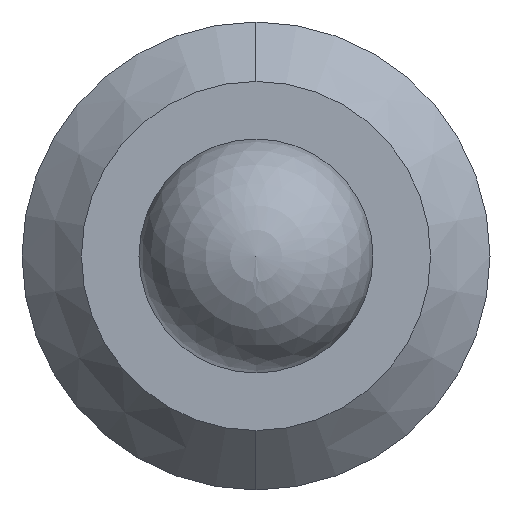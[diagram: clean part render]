
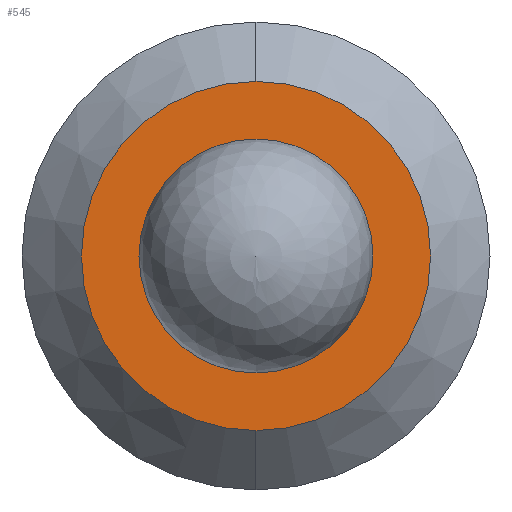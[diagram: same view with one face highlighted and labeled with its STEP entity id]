
A CAD part, left-side view. The second image highlights one B-rep face of the part: STEP entity #545.
In plain terms, the highlighted planar face has unit normal (-1, 0, 0).
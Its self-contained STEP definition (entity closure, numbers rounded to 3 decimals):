
#71 = DIRECTION ( 'NONE',  ( 0., 0., -1. ) ) ;
#72 = AXIS2_PLACEMENT_3D ( 'NONE', #357, #354, #351 ) ;
#76 = CARTESIAN_POINT ( 'NONE',  ( 0., 0., 0. ) ) ;
#78 = EDGE_CURVE ( 'NONE', #404, #268, #488, .T. ) ;
#80 = CARTESIAN_POINT ( 'NONE',  ( 0., 0., 0.746 ) ) ;
#88 = PLANE ( 'NONE',  #271 ) ;
#98 = EDGE_CURVE ( 'NONE', #268, #404, #119, .T. ) ;
#100 = AXIS2_PLACEMENT_3D ( 'NONE', #592, #169, #150 ) ;
#119 = CIRCLE ( 'NONE', #100, 0.5 ) ;
#132 = DIRECTION ( 'NONE',  ( 1., 0., 0. ) ) ;
#150 = DIRECTION ( 'NONE',  ( 0., 0., 1. ) ) ;
#169 = DIRECTION ( 'NONE',  ( -1., 0., 0. ) ) ;
#171 = VERTEX_POINT ( 'NONE', #586 ) ;
#216 = CIRCLE ( 'NONE', #72, 0.746 ) ;
#219 = FACE_BOUND ( 'NONE', #610, .T. ) ;
#229 = CARTESIAN_POINT ( 'NONE',  ( 0., 0., -0.5 ) ) ;
#248 = AXIS2_PLACEMENT_3D ( 'NONE', #279, #272, #270 ) ;
#268 = VERTEX_POINT ( 'NONE', #384 ) ;
#270 = DIRECTION ( 'NONE',  ( 0., 0., -1. ) ) ;
#271 = AXIS2_PLACEMENT_3D ( 'NONE', #76, #132, #71 ) ;
#272 = DIRECTION ( 'NONE',  ( -1., 0., 0. ) ) ;
#276 = EDGE_CURVE ( 'NONE', #171, #576, #216, .T. ) ;
#279 = CARTESIAN_POINT ( 'NONE',  ( 0., 0., 0. ) ) ;
#282 = EDGE_LOOP ( 'NONE', ( #398, #535 ) ) ;
#294 = AXIS2_PLACEMENT_3D ( 'NONE', #501, #420, #573 ) ;
#351 = DIRECTION ( 'NONE',  ( 0., 0., -1. ) ) ;
#354 = DIRECTION ( 'NONE',  ( -1., 0., 0. ) ) ;
#357 = CARTESIAN_POINT ( 'NONE',  ( 0., 0., 0. ) ) ;
#362 = EDGE_CURVE ( 'NONE', #576, #171, #604, .T. ) ;
#384 = CARTESIAN_POINT ( 'NONE',  ( 0., 0., 0.5 ) ) ;
#398 = ORIENTED_EDGE ( 'NONE', *, *, #276, .T. ) ;
#404 = VERTEX_POINT ( 'NONE', #229 ) ;
#420 = DIRECTION ( 'NONE',  ( -1., 0., 0. ) ) ;
#483 = FACE_OUTER_BOUND ( 'NONE', #282, .T. ) ;
#488 = CIRCLE ( 'NONE', #294, 0.5 ) ;
#501 = CARTESIAN_POINT ( 'NONE',  ( 0., 0., 0. ) ) ;
#511 = ORIENTED_EDGE ( 'NONE', *, *, #98, .F. ) ;
#512 = ORIENTED_EDGE ( 'NONE', *, *, #78, .F. ) ;
#535 = ORIENTED_EDGE ( 'NONE', *, *, #362, .T. ) ;
#545 = ADVANCED_FACE ( 'NONE', ( #219, #483 ), #88, .F. ) ;
#573 = DIRECTION ( 'NONE',  ( 0., 0., 1. ) ) ;
#576 = VERTEX_POINT ( 'NONE', #80 ) ;
#586 = CARTESIAN_POINT ( 'NONE',  ( 0., 0., -0.746 ) ) ;
#592 = CARTESIAN_POINT ( 'NONE',  ( 0., 0., 0. ) ) ;
#604 = CIRCLE ( 'NONE', #248, 0.746 ) ;
#610 = EDGE_LOOP ( 'NONE', ( #511, #512 ) ) ;
